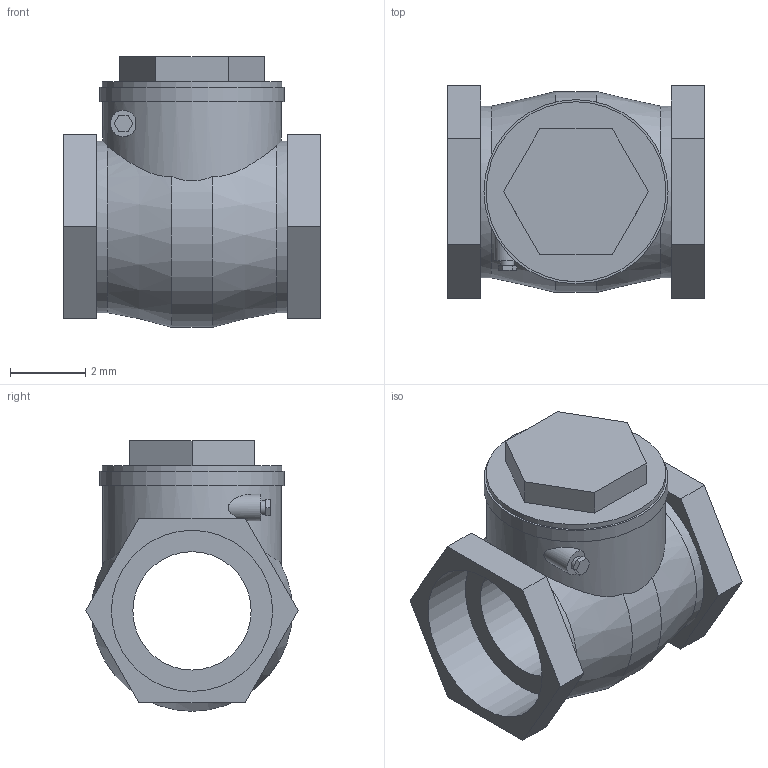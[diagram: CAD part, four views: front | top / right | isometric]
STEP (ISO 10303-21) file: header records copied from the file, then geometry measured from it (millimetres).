
FILE_DESCRIPTION(('Open CASCADE Model'),'2;1');
FILE_NAME('Open CASCADE Shape Model','2022-05-05T07:47:37',('Author'),( 'Open CASCADE'),'Open CASCADE STEP processor 7.3','Open CASCADE 7.3' ,'Unknown');
FILE_SCHEMA(('AUTOMOTIVE_DESIGN { 1 0 10303 214 1 1 1 1 }'));
Length unit declared in the file: millimetre
Products named in the file (1): Open CASCADE STEP translator 7.3 1
Bounding box: 6.84 x 5.66 x 7.21 mm (x, y, z)
Volume: 100.7 mm3; surface area: 263 mm2
Topology: 1 solids, 1 shells, 50 faces, 114 edges, 76 vertices
Faces by surface type: plane 37, cylinder 11, cone 2
Full cylindrical faces by diameter (mm): 0.37 x1, 3.15 x1, 4.29 x2, 4.569 x2, 4.757 x1, 4.79 x1, 4.9 x1
Entity records: 3831 total; most frequent: CARTESIAN_POINT 1503, DIRECTION 420, LINE 265, VECTOR 265, ORIENTED_EDGE 228, PCURVE 228, DEFINITIONAL_REPRESENTATION 228, EDGE_CURVE 114
